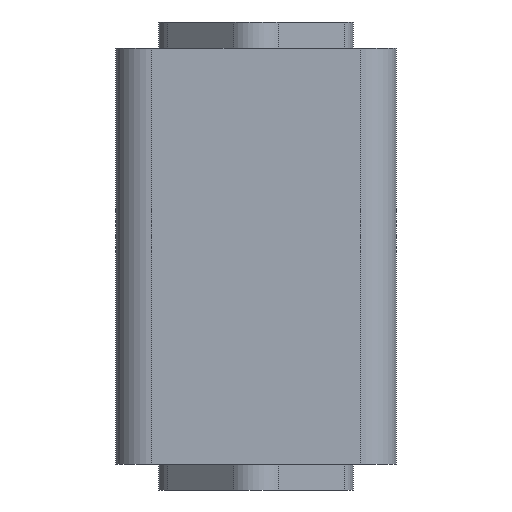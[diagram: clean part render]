
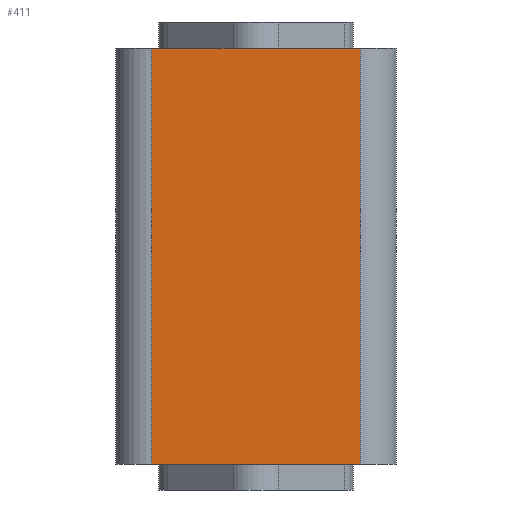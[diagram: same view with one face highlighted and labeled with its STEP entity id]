
A CAD part, front view. The second image highlights one B-rep face of the part: STEP entity #411.
In plain terms, the highlighted planar face has unit normal (0, -1, 0).
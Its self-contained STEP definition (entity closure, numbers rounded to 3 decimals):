
#346=CARTESIAN_POINT('',(10.,-13.5,40.0));
#347=VERTEX_POINT('',#346);
#355=CARTESIAN_POINT('',(10.,-13.5,0.0));
#356=VERTEX_POINT('',#355);
#357=CARTESIAN_POINT('',(10.,-13.5,0.0));
#358=DIRECTION('',(0.0,0.0,1.0));
#359=VECTOR('',#358,40.0);
#360=LINE('',#357,#359);
#361=EDGE_CURVE('',#356,#347,#360,.T.);
#381=CARTESIAN_POINT('',(10.,-13.5,0.0));
#382=DIRECTION('',(0.0,-1.0,0.0));
#383=DIRECTION('',(0.0,0.0,-1.0));
#384=AXIS2_PLACEMENT_3D('',#381,#382,#383);
#385=PLANE('',#384);
#386=CARTESIAN_POINT('',(-10.,-13.5,40.0));
#387=VERTEX_POINT('',#386);
#388=CARTESIAN_POINT('',(10.,-13.5,40.0));
#389=DIRECTION('',(-1.0,0.0,0.0));
#390=VECTOR('',#389,20.);
#391=LINE('',#388,#390);
#392=EDGE_CURVE('',#347,#387,#391,.T.);
#393=ORIENTED_EDGE('',*,*,#392,.T.);
#394=CARTESIAN_POINT('',(-10.,-13.5,0.0));
#395=VERTEX_POINT('',#394);
#396=CARTESIAN_POINT('',(-10.,-13.5,0.0));
#397=DIRECTION('',(0.0,0.0,1.0));
#398=VECTOR('',#397,40.0);
#399=LINE('',#396,#398);
#400=EDGE_CURVE('',#395,#387,#399,.T.);
#401=ORIENTED_EDGE('',*,*,#400,.F.);
#402=CARTESIAN_POINT('',(-10.,-13.5,0.0));
#403=DIRECTION('',(1.0,0.0,0.0));
#404=VECTOR('',#403,20.);
#405=LINE('',#402,#404);
#406=EDGE_CURVE('',#395,#356,#405,.T.);
#407=ORIENTED_EDGE('',*,*,#406,.T.);
#408=ORIENTED_EDGE('',*,*,#361,.T.);
#409=EDGE_LOOP('',(#393,#401,#407,#408));
#410=FACE_OUTER_BOUND('',#409,.T.);
#411=ADVANCED_FACE('',(#410),#385,.T.);
